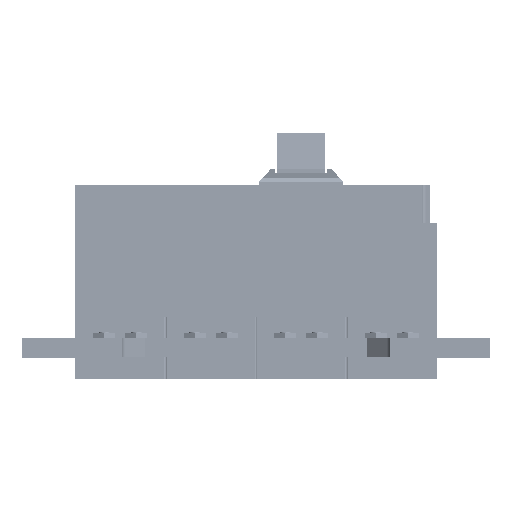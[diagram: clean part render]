
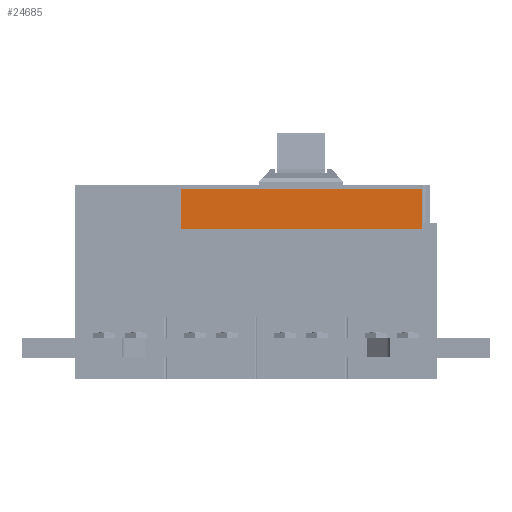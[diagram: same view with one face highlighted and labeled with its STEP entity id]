
A CAD part, top view. The second image highlights one B-rep face of the part: STEP entity #24685.
In plain terms, the highlighted planar face has unit normal (0, 0, 1).
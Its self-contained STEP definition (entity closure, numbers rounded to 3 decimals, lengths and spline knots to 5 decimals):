
#1894=PLANE('',#26349);
#2995=FACE_OUTER_BOUND('',#4469,.T.);
#4469=EDGE_LOOP('',(#19786,#19787,#19788,#19789,#19790));
#6913=LINE('',#67787,#9272);
#6914=LINE('',#67789,#9273);
#6915=LINE('',#67791,#9274);
#6916=LINE('',#67793,#9275);
#6917=LINE('',#67794,#9276);
#9272=VECTOR('',#30155,0.1866);
#9273=VECTOR('',#30156,0.005);
#9274=VECTOR('',#30157,0.0261);
#9275=VECTOR('',#30158,0.1866);
#9276=VECTOR('',#30159,0.0311);
#11642=VERTEX_POINT('',#67785);
#11643=VERTEX_POINT('',#67786);
#11644=VERTEX_POINT('',#67788);
#11645=VERTEX_POINT('',#67790);
#11646=VERTEX_POINT('',#67792);
#14622=EDGE_CURVE('',#11642,#11643,#6913,.T.);
#14623=EDGE_CURVE('',#11643,#11644,#6914,.T.);
#14624=EDGE_CURVE('',#11644,#11645,#6915,.T.);
#14625=EDGE_CURVE('',#11646,#11645,#6916,.T.);
#14626=EDGE_CURVE('',#11646,#11642,#6917,.T.);
#19786=ORIENTED_EDGE('',*,*,#14622,.T.);
#19787=ORIENTED_EDGE('',*,*,#14623,.T.);
#19788=ORIENTED_EDGE('',*,*,#14624,.T.);
#19789=ORIENTED_EDGE('',*,*,#14625,.F.);
#19790=ORIENTED_EDGE('',*,*,#14626,.T.);
#24685=ADVANCED_FACE('',(#2995),#1894,.T.);
#26349=AXIS2_PLACEMENT_3D('',#67784,#30153,#30154);
#30153=DIRECTION('center_axis',(0.,0.,1.));
#30154=DIRECTION('ref_axis',(1.,0.,0.));
#30155=DIRECTION('',(1.,0.,0.));
#30156=DIRECTION('',(0.,1.,0.));
#30157=DIRECTION('',(0.,1.,0.));
#30158=DIRECTION('',(1.,0.,0.));
#30159=DIRECTION('',(0.,-1.,0.));
#67784=CARTESIAN_POINT('Origin',(-0.0933,0.,0.111));
#67785=CARTESIAN_POINT('',(-0.0933,0.,0.111));
#67786=CARTESIAN_POINT('',(0.0933,0.,0.111));
#67787=CARTESIAN_POINT('',(-0.0933,0.,0.111));
#67788=CARTESIAN_POINT('',(0.0933,0.005,0.111));
#67789=CARTESIAN_POINT('',(0.0933,0.,0.111));
#67790=CARTESIAN_POINT('',(0.0933,0.0311,0.111));
#67791=CARTESIAN_POINT('',(0.0933,0.005,0.111));
#67792=CARTESIAN_POINT('',(-0.0933,0.0311,0.111));
#67793=CARTESIAN_POINT('',(-0.0933,0.0311,0.111));
#67794=CARTESIAN_POINT('',(-0.0933,0.0311,0.111));
